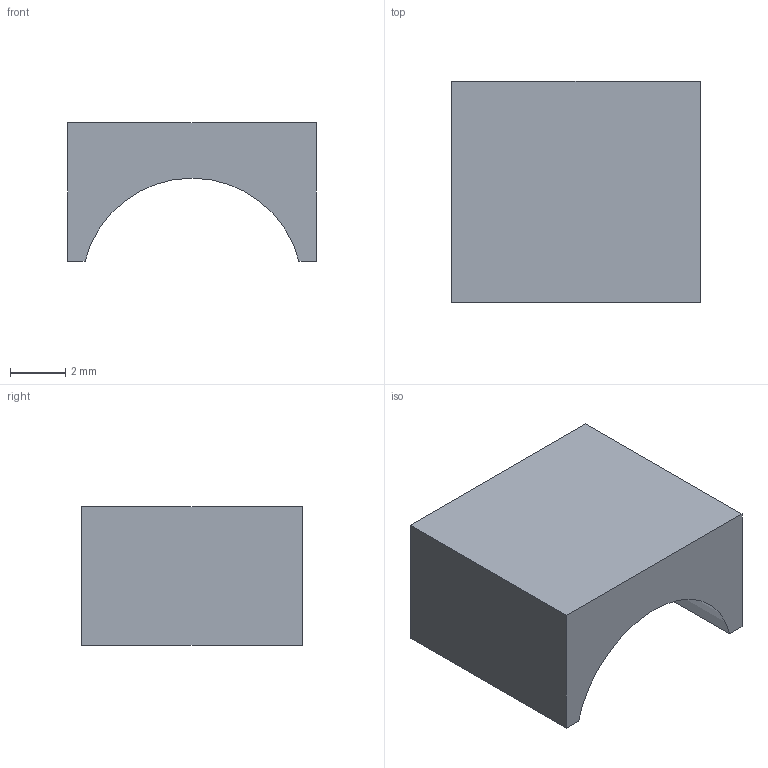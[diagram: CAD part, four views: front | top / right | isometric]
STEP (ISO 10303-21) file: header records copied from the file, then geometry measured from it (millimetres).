
FILE_DESCRIPTION(('Open CASCADE Model'),'2;1');
FILE_NAME('Open CASCADE Shape Model','2026-10-21T17:23:52',('Author'),( 'Open CASCADE'),'Open CASCADE STEP processor 7.9','Open CASCADE 7.9' ,'Unknown');
FILE_SCHEMA(('AUTOMOTIVE_DESIGN { 1 0 10303 214 1 1 1 1 }'));
Length unit declared in the file: millimetre
Products named in the file (1): Open CASCADE STEP translator 7.9 54
Bounding box: 9 x 8 x 5 mm (x, y, z)
Volume: 222.3 mm3; surface area: 302 mm2
Topology: 1 solids, 1 shells, 8 faces, 18 edges, 12 vertices
Faces by surface type: plane 7, cylinder 1
Entity records: 468 total; most frequent: CARTESIAN_POINT 75, DIRECTION 74, LINE 50, VECTOR 50, ORIENTED_EDGE 36, PCURVE 36, DEFINITIONAL_REPRESENTATION 36, EDGE_CURVE 18
